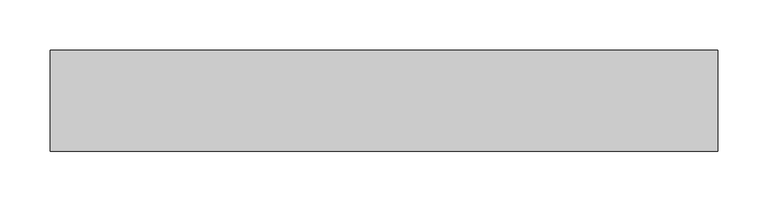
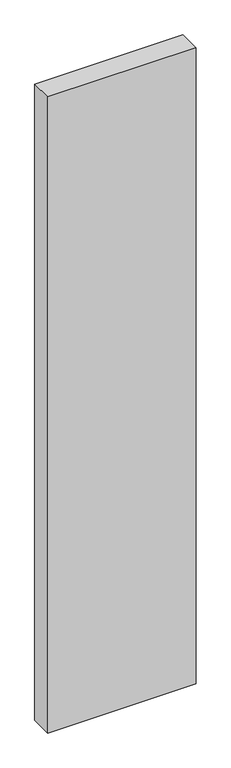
"""IFC4 building model written with IfcOpenShell, lengths in millimetres: plate geometry, Пустая системная панель : Пустая системная панель."""

from ifc_helpers import new_model, si_unit, origin, origin_with_axes, place, context, project, spatial, polyline, outline, extrude, source, transform, mapped, element, save


def plate_2af0177e(model_context):
    return source(origin(), model_context, "Body", "SweptSolid", [
        extrude(outline(polyline([(331.25, -50.0), (-331.25, -50.0), (-331.25, 50.0), (331.25, 50.0), (331.25, -50.0)])), origin_with_axes(), (0.0, 0.0, 1.0), 3000.0),
    ])


if __name__ == "__main__":
    model = new_model("IFC4")
    model_context = context("Model", 3, world=origin())
    ifc_project = project(units=[si_unit("LENGTHUNIT", "METRE", prefix="MILLI")], contexts=[model_context])
    site = spatial("IfcSite", under=ifc_project)
    building = spatial("IfcBuilding", under=site)
    placement = place(None, origin())
    plate_shape = plate_2af0177e(model_context)
    element("IfcPlate", 1, ObjectType="Пустая системная панель : Пустая системная панель", at=placement, inside=building, context=model_context, shape_type="MappedRepresentation", body=[
        mapped(plate_shape, transform((0.0, 0.0, 0.0), x_axis=(1.0, 0.0, 0.0), y_axis=(0.0, 1.0, 0.0), z_axis=(0.0, 0.0, 1.0))),
    ])
    save(model, "model.ifc")
